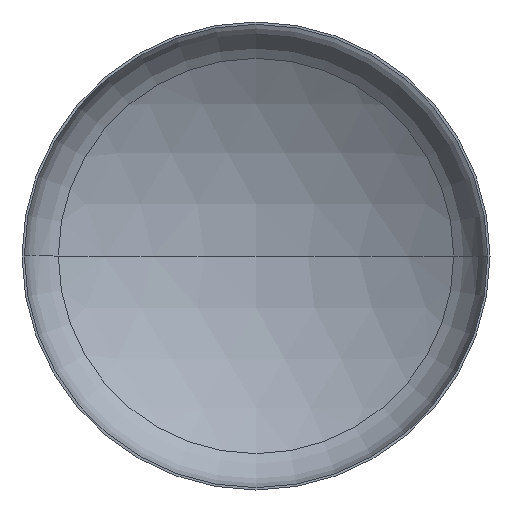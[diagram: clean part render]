
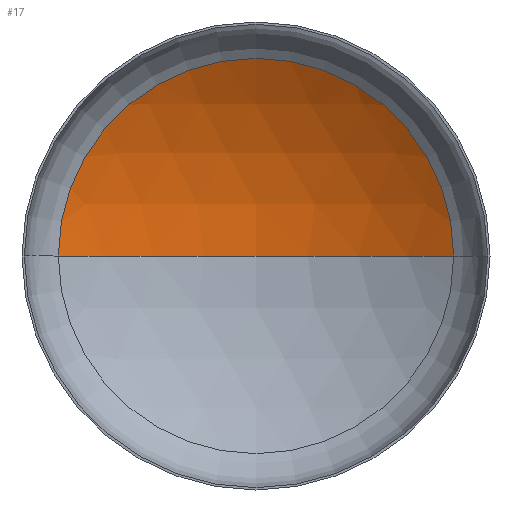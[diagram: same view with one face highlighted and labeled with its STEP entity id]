
A CAD part, front view. The second image highlights one B-rep face of the part: STEP entity #17.
In plain terms, the highlighted spherical face has radius 4000 mm.
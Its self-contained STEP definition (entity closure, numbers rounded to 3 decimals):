
#7 = VERTEX_POINT ( 'NONE', #245 ) ;
#10 = CARTESIAN_POINT ( 'NONE',  ( 0., 1331.667, 0. ) ) ;
#17 = ADVANCED_FACE ( 'NONE', ( #69 ), #148, .F. ) ;
#52 = AXIS2_PLACEMENT_3D ( 'NONE', #263, #409, #279 ) ;
#53 = AXIS2_PLACEMENT_3D ( 'NONE', #297, #157, #324 ) ;
#54 = AXIS2_PLACEMENT_3D ( 'NONE', #233, #390, #260 ) ;
#61 = ORIENTED_EDGE ( 'NONE', *, *, #139, .T. ) ;
#65 = ORIENTED_EDGE ( 'NONE', *, *, #156, .T. ) ;
#69 = FACE_OUTER_BOUND ( 'NONE', #112, .T. ) ;
#70 = VERTEX_POINT ( 'NONE', #313 ) ;
#91 = AXIS2_PLACEMENT_3D ( 'NONE', #289, #140, #227 ) ;
#102 = VERTEX_POINT ( 'NONE', #10 ) ;
#112 = EDGE_LOOP ( 'NONE', ( #121, #65, #61 ) ) ;
#121 = ORIENTED_EDGE ( 'NONE', *, *, #170, .F. ) ;
#139 = EDGE_CURVE ( 'NONE', #70, #7, #236, .T. ) ;
#140 = DIRECTION ( 'NONE',  ( 0., 0., -1. ) ) ;
#148 = SPHERICAL_SURFACE ( 'NONE', #91, 4000. ) ;
#156 = EDGE_CURVE ( 'NONE', #102, #70, #292, .T. ) ;
#157 = DIRECTION ( 'NONE',  ( 0., 0., -1. ) ) ;
#170 = EDGE_CURVE ( 'NONE', #102, #7, #348, .T. ) ;
#227 = DIRECTION ( 'NONE',  ( -1., 0., 0. ) ) ;
#233 = CARTESIAN_POINT ( 'NONE',  ( 0., 728.983, 0. ) ) ;
#236 = CIRCLE ( 'NONE', #54, 2111.455 ) ;
#245 = CARTESIAN_POINT ( 'NONE',  ( -2111.455, 728.983, 0. ) ) ;
#260 = DIRECTION ( 'NONE',  ( 1., 0., 0. ) ) ;
#263 = CARTESIAN_POINT ( 'NONE',  ( 0., -2668.333, 0. ) ) ;
#279 = DIRECTION ( 'NONE',  ( 1., 0., 0. ) ) ;
#289 = CARTESIAN_POINT ( 'NONE',  ( 0., -2668.333, 0. ) ) ;
#292 = CIRCLE ( 'NONE', #53, 4000. ) ;
#297 = CARTESIAN_POINT ( 'NONE',  ( 0., -2668.333, 0. ) ) ;
#313 = CARTESIAN_POINT ( 'NONE',  ( 2111.455, 728.983, 0. ) ) ;
#324 = DIRECTION ( 'NONE',  ( -1., 0., 0. ) ) ;
#348 = CIRCLE ( 'NONE', #52, 4000. ) ;
#390 = DIRECTION ( 'NONE',  ( 0., -1., 0. ) ) ;
#409 = DIRECTION ( 'NONE',  ( 0., 0., 1. ) ) ;
